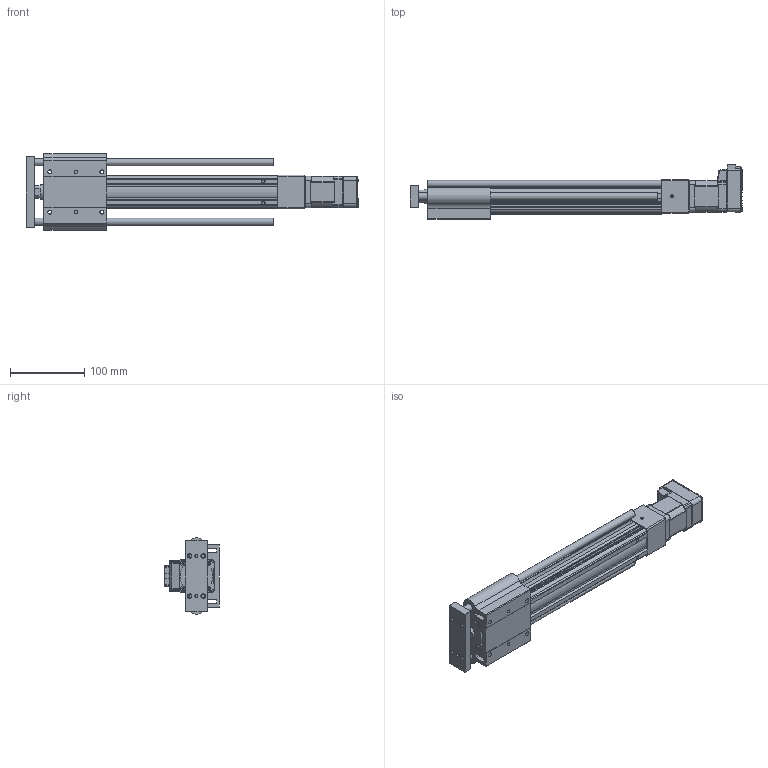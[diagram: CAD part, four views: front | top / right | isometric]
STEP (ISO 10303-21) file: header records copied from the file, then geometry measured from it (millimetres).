
FILE_DESCRIPTION (( 'STEP AP214' ), '1' );
FILE_NAME ('LEYG3(+)-25LDNM1□-200-17L.STEP', '2023-04-10T04:34:51', ( '' ), ( '' ), 'SwSTEP 2.0', 'SolidWorks 2019', '' );
FILE_SCHEMA (( 'AUTOMOTIVE_DESIGN' ));
Length unit declared in the file: millimetre
Products named in the file (6): LEYG3(+)-25LNM1□_ATTACH_200; LEYG3(+)-25□DNM1_MOTOR Flange; LEYG3(+)-25LNM1?_ROD_200; CM3(+)-17L50A; LEYG3(+)-25NM1?_BODY_200; LEYG3(+)-25LDNM1□-200-17L
Assembly tree (5 placements, depth 2):
  LEYG3(+)-25LDNM1□-200-17L
    LEYG3(+)-25NM1?_BODY_200
    LEYG3(+)-25LNM1?_ROD_200
    LEYG3(+)-25LNM1□_ATTACH_200
    LEYG3(+)-25□DNM1_MOTOR Flange
    CM3(+)-17L50A
Bounding box: 445.8 x 73.55 x 103 mm (x, y, z)
Volume: 957739 mm3; surface area: 214303.9 mm2
Topology: 5 solids, 5 shells, 940 faces, 2388 edges, 1501 vertices
Faces by surface type: plane 499, cylinder 272, cone 90, bspline 29, torus 29, sphere 21
Full cylindrical faces by diameter (mm): 2.5 x4, 3.5 x4, 4 x2, 4.2 x2, 4.9 x4, 5 x1, 5.4 x4, 8 x1, 10 x2, 11 x1, 22 x1, 33 x1
Entity records: 38867 total; most frequent: CARTESIAN_POINT 6846, ORIENTED_EDGE 4620, DIRECTION 4489, EDGE_CURVE 2310, AXIS2_PLACEMENT_3D 1502, VERTEX_POINT 1494, VECTOR 1485, LINE 1485
